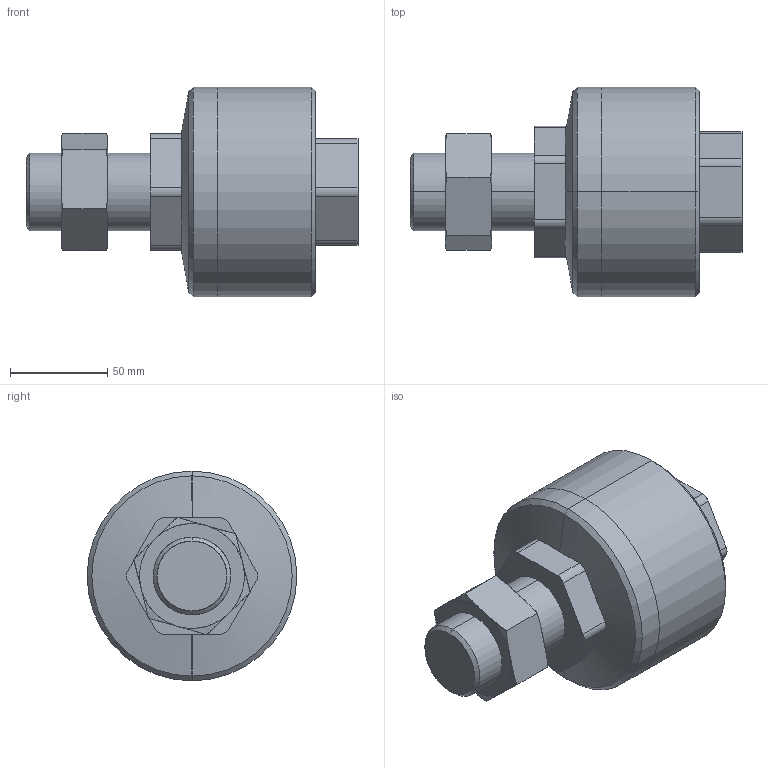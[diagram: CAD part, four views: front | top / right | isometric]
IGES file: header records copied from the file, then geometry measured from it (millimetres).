
Start section: SolidWorks IGES file using analytic representation for surfaces
Global section: file name: D:\MI\新增資料夾\FC\FCM40-1.5.IGS; native system: SolidWorks 2013; preprocessor: SolidWorks 2013; author: Sam Lin; date: 160323.114309; units: millimetre
Bounding box: 171 x 108 x 108 mm (x, y, z)
Surface area: 68727.2 mm2 (no closed solid volume)
Topology: 0 solids, 0 shells, 73 faces, 1256 edges, 1256 vertices
Faces by surface type: bspline 43, revolution 30
